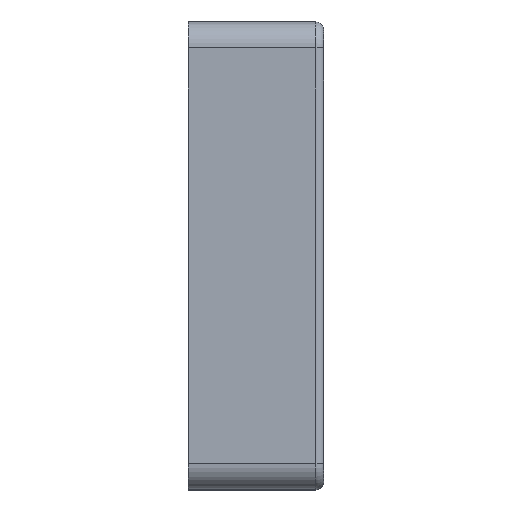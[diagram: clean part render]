
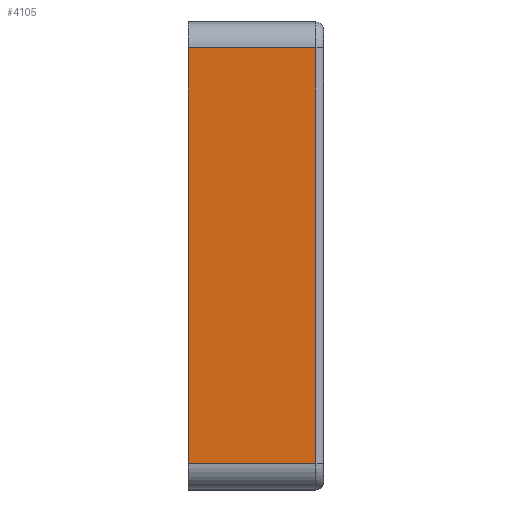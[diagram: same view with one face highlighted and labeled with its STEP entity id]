
A CAD part, top view. The second image highlights one B-rep face of the part: STEP entity #4105.
In plain terms, the highlighted planar face has unit normal (0, 0, 1).
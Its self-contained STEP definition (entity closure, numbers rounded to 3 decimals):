
#4087=AXIS2_PLACEMENT_3D('Plane Axis2P3D',#4084,#4085,#4086) ;
#330=CARTESIAN_POINT('Vertex',(0.,-40.,49.14)) ;
#333=CARTESIAN_POINT('Line Origine',(0.,0.,49.14)) ;
#337=CARTESIAN_POINT('Vertex',(0.,40.,49.14)) ;
#3407=CARTESIAN_POINT('Vertex',(24.5,40.,49.14)) ;
#3427=CARTESIAN_POINT('Line Origine',(24.5,0.,49.14)) ;
#3431=CARTESIAN_POINT('Vertex',(24.5,-40.,49.14)) ;
#4084=CARTESIAN_POINT('Axis2P3D Location',(0.,-45.,49.14)) ;
#4089=CARTESIAN_POINT('Line Origine',(12.25,40.,49.14)) ;
#4094=CARTESIAN_POINT('Line Origine',(12.25,-40.,49.14)) ;
#334=DIRECTION('Vector Direction',(0.,1.,0.)) ;
#3428=DIRECTION('Vector Direction',(0.,-1.,0.)) ;
#4085=DIRECTION('Axis2P3D Direction',(0.,0.,-1.)) ;
#4086=DIRECTION('Axis2P3D XDirection',(0.,1.,0.)) ;
#4090=DIRECTION('Vector Direction',(1.,0.,0.)) ;
#4095=DIRECTION('Vector Direction',(1.,0.,0.)) ;
#335=VECTOR('Line Direction',#334,1.) ;
#3429=VECTOR('Line Direction',#3428,1.) ;
#4091=VECTOR('Line Direction',#4090,1.) ;
#4096=VECTOR('Line Direction',#4095,1.) ;
#4100=ORIENTED_EDGE('',*,*,#3433,.F.) ;
#4101=ORIENTED_EDGE('',*,*,#4093,.F.) ;
#4102=ORIENTED_EDGE('',*,*,#339,.T.) ;
#4103=ORIENTED_EDGE('',*,*,#4098,.T.) ;
#4105=ADVANCED_FACE('PartBody',(#4104),#4088,.F.) ;
#339=EDGE_CURVE('',#338,#331,#336,.F.) ;
#3433=EDGE_CURVE('',#3408,#3432,#3430,.T.) ;
#4093=EDGE_CURVE('',#338,#3408,#4092,.T.) ;
#4098=EDGE_CURVE('',#331,#3432,#4097,.T.) ;
#4099=EDGE_LOOP('',(#4100,#4101,#4102,#4103)) ;
#4104=FACE_OUTER_BOUND('',#4099,.T.) ;
#336=LINE('Line',#333,#335) ;
#3430=LINE('Line',#3427,#3429) ;
#4092=LINE('Line',#4089,#4091) ;
#4097=LINE('Line',#4094,#4096) ;
#4088=PLANE('',#4087) ;
#331=VERTEX_POINT('',#330) ;
#338=VERTEX_POINT('',#337) ;
#3408=VERTEX_POINT('',#3407) ;
#3432=VERTEX_POINT('',#3431) ;
